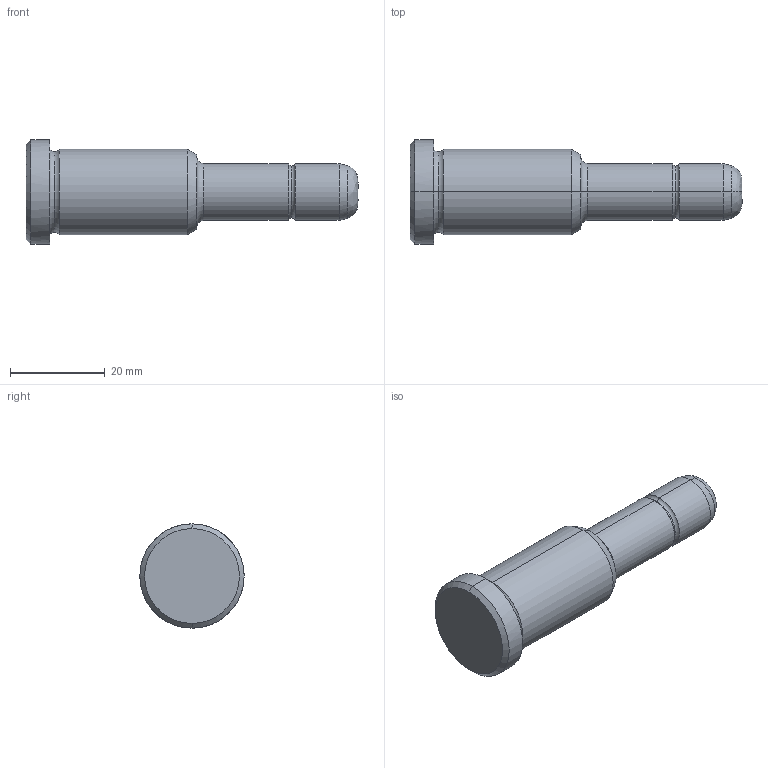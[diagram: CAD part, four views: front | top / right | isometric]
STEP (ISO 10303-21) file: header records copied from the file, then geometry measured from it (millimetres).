
FILE_DESCRIPTION(('CATIA V5 STEP Exchange'),'2;1');
FILE_NAME('C:\Users\Utente\Desktop\IO LAVORO\3D X SITO CF\X SITO\PLASTICA\351\351-12X36X70.stp','2021-08-17T12:30:13+00:00',('none'),('none'),'CATIA Version 5 Release 20 GA (IN-10)','CATIA V5 STEP AP203','none');
FILE_SCHEMA(('CONFIG_CONTROL_DESIGN'));
Length unit declared in the file: millimetre
Products named in the file (1): 351-12X36X70
Bounding box: 70 x 22 x 22 mm (x, y, z)
Volume: 13393.3 mm3; surface area: 3980.5 mm2
Topology: 1 solids, 1 shells, 30 faces, 86 edges, 60 vertices
Faces by surface type: torus 10, cylinder 8, cone 6, plane 4, bspline 2
Entity records: 1128 total; most frequent: CARTESIAN_POINT 343, ORIENTED_EDGE 172, DIRECTION 124, EDGE_CURVE 86, AXIS2_PLACEMENT_3D 83, VERTEX_POINT 60, CIRCLE 54, EDGE_LOOP 32
